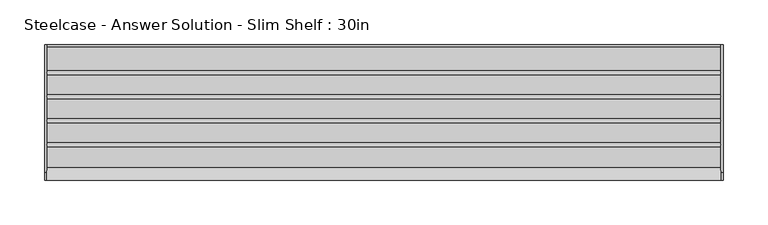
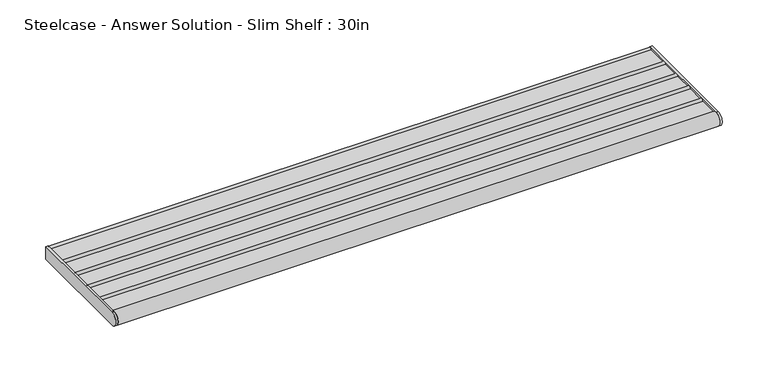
"""IFC4 building model written with IfcOpenShell, lengths in millimetres: furniture geometry, Steelcase - Answer Solution - Slim Shelf : 30in."""

from ifc_helpers import new_model, si_unit, point, frame, frame_2d, origin, place, context, project, spatial, polyline, circle_curve, trimmed, segment, composite_curve, outline, extrude, source, transform, mapped, element, save


def steelcase_answer_solution_slim_shelf_30in_3f86dd77(model_context):
    return source(origin(), model_context, "Body", "SweptSolid", [
        extrude(outline(composite_curve([segment(polyline([(-29.2099994, 928.482716), (-2.2859999, 928.482716)]), True, "CONTINUOUS"), segment(trimmed(circle_curve(frame_2d((1e-07, 928.482716)), 2.2860001), [point((-2.2859999, 928.482716))], [point((0.0, 930.7687161))], False, "CARTESIAN"), True, "CONTINUOUS"), segment(polyline([(0.0, 930.7687161), (0.0, 914.4), (-143.9753135, 914.4)]), True, "CONTINUOUS"), segment(trimmed(circle_curve(frame_2d((-143.9753135, 922.8328065)), 8.4328065), [point((-143.9753135, 914.4))], [point((-137.7150621, 928.482716))], False, "CARTESIAN"), True, "CONTINUOUS"), segment(polyline([(-137.7150621, 928.482716), (-114.7063978, 928.482716)]), True, "CONTINUOUS"), segment(trimmed(circle_curve(frame_2d((-112.4204, 928.482716)), 2.2859978), [point((-114.7063978, 928.482716))], [point((-110.1344022, 928.482716))], False, "CARTESIAN"), True, "CONTINUOUS"), segment(polyline([(-110.1344022, 928.482716), (-87.7315999, 928.482716)]), True, "CONTINUOUS"), segment(trimmed(circle_curve(frame_2d((-85.4456021, 928.482716)), 2.2859978), [point((-87.7315999, 928.482716))], [point((-83.1596043, 928.482716))], False, "CARTESIAN"), True, "CONTINUOUS"), segment(polyline([(-83.1596043, 928.482716), (-60.756802, 928.482716)]), True, "CONTINUOUS"), segment(trimmed(circle_curve(frame_2d((-58.4708019, 928.482716)), 2.2860001), [point((-60.756802, 928.482716))], [point((-56.1848018, 928.482716))], False, "CARTESIAN"), True, "CONTINUOUS"), segment(polyline([(-56.1848018, 928.482716), (-33.7819996, 928.482716)]), True, "CONTINUOUS"), segment(trimmed(circle_curve(frame_2d((-31.4959995, 928.482716)), 2.2860001), [point((-33.7819996, 928.482716))], [point((-29.2099994, 928.482716))], False, "CARTESIAN"), True, "CONTINUOUS")], self_intersect=False)), frame((2.7431999, 0.0, 0.0), z_axis=(1.0, 0.0, 0.0), x_axis=(0.0, 1.0, 0.0)), (0.0, 0.0, 1.0), 756.4120001),
        extrude(outline(composite_curve([segment(polyline([(-143.9753135, 931.265613), (0.0, 931.265613), (0.0, 914.4), (-143.9753135, 914.4)]), True, "CONTINUOUS"), segment(trimmed(circle_curve(frame_2d((-143.9753135, 922.8328065)), 8.4328065), [point((-143.9753135, 914.4))], [point((-143.9753135, 931.265613))], False, "CARTESIAN"), True, "CONTINUOUS")], self_intersect=False)), frame((759.1552, 0.0, 0.0), z_axis=(1.0, 0.0, 0.0), x_axis=(0.0, 1.0, 0.0)), (0.0, 0.0, 1.0), 2.8448),
        extrude(outline(composite_curve([segment(polyline([(-143.9753135, 931.265613), (0.0, 931.265613), (0.0, 914.4), (-143.9753135, 914.4)]), True, "CONTINUOUS"), segment(trimmed(circle_curve(frame_2d((-143.9753135, 922.8328065)), 8.4328065), [point((-143.9753135, 914.4))], [point((-143.9753135, 931.265613))], False, "CARTESIAN"), True, "CONTINUOUS")], self_intersect=False)), frame((0.0, 0.0, 0.0), z_axis=(1.0, 0.0, 0.0), x_axis=(0.0, 1.0, 0.0)), (0.0, 0.0, 1.0), 2.7431999),
    ])


if __name__ == "__main__":
    model = new_model("IFC4")
    model_context = context("Model", 3, world=origin())
    ifc_project = project(units=[si_unit("LENGTHUNIT", "METRE", prefix="MILLI")], contexts=[model_context])
    site = spatial("IfcSite", under=ifc_project)
    building = spatial("IfcBuilding", under=site)
    placement = place(None, origin())
    steelcase_answer_solution_slim_shelf_30in_shape = steelcase_answer_solution_slim_shelf_30in_3f86dd77(model_context)
    element("IfcFurniture", 1, ObjectType="Steelcase - Answer Solution - Slim Shelf : 30in", at=placement, inside=building, context=model_context, shape_type="MappedRepresentation", body=[
        mapped(steelcase_answer_solution_slim_shelf_30in_shape, transform((0.0, 0.0, 0.0), x_axis=(1.0, 0.0, 0.0), y_axis=(0.0, 1.0, 0.0), z_axis=(0.0, 0.0, 1.0))),
    ])
    save(model, "model.ifc")
